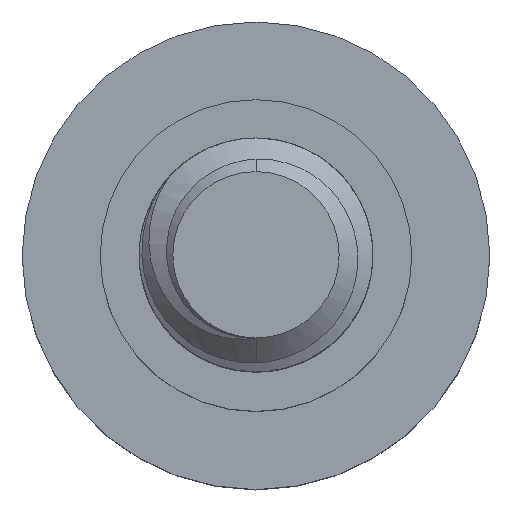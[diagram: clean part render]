
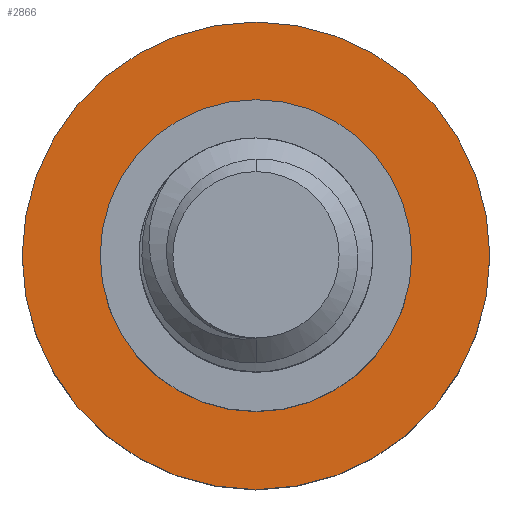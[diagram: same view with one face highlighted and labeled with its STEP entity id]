
A CAD part, top view. The second image highlights one B-rep face of the part: STEP entity #2866.
In plain terms, the highlighted planar face has unit normal (0, 0, 1).
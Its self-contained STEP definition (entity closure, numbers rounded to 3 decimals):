
#27 = CARTESIAN_POINT ( 'NONE',  ( 0., 0., -4. ) ) ;
#53 = PLANE ( 'NONE',  #1528 ) ;
#225 = EDGE_CURVE ( 'NONE', #3052, #949, #1937, .T. ) ;
#315 = VERTEX_POINT ( 'NONE', #2315 ) ;
#421 = DIRECTION ( 'NONE',  ( 0., 0., -1. ) ) ;
#616 = VERTEX_POINT ( 'NONE', #1017 ) ;
#700 = CIRCLE ( 'NONE', #2765, 6. ) ;
#724 = FACE_BOUND ( 'NONE', #2241, .T. ) ;
#898 = DIRECTION ( 'NONE',  ( 0., 0., -1. ) ) ;
#949 = VERTEX_POINT ( 'NONE', #1405 ) ;
#990 = DIRECTION ( 'NONE',  ( 0., 0., -1. ) ) ;
#1017 = CARTESIAN_POINT ( 'NONE',  ( -6., 0., -4. ) ) ;
#1229 = ORIENTED_EDGE ( 'NONE', *, *, #2730, .T. ) ;
#1309 = CARTESIAN_POINT ( 'NONE',  ( 0., 0., -4. ) ) ;
#1405 = CARTESIAN_POINT ( 'NONE',  ( 4., 0., -4. ) ) ;
#1528 = AXIS2_PLACEMENT_3D ( 'NONE', #3718, #1724, #3311 ) ;
#1532 = AXIS2_PLACEMENT_3D ( 'NONE', #27, #3285, #3592 ) ;
#1724 = DIRECTION ( 'NONE',  ( 0., 0., -1. ) ) ;
#1731 = DIRECTION ( 'NONE',  ( -1., 0., 0. ) ) ;
#1937 = CIRCLE ( 'NONE', #2760, 4. ) ;
#1939 = EDGE_CURVE ( 'NONE', #315, #616, #700, .T. ) ;
#2058 = FACE_OUTER_BOUND ( 'NONE', #2139, .T. ) ;
#2139 = EDGE_LOOP ( 'NONE', ( #3662, #3164 ) ) ;
#2165 = CARTESIAN_POINT ( 'NONE',  ( 0., 0., -4. ) ) ;
#2241 = EDGE_LOOP ( 'NONE', ( #3350, #1229 ) ) ;
#2315 = CARTESIAN_POINT ( 'NONE',  ( 6., 0., -4. ) ) ;
#2391 = CARTESIAN_POINT ( 'NONE',  ( -4., 0., -4. ) ) ;
#2592 = DIRECTION ( 'NONE',  ( -1., 0., 0. ) ) ;
#2730 = EDGE_CURVE ( 'NONE', #949, #3052, #3187, .T. ) ;
#2760 = AXIS2_PLACEMENT_3D ( 'NONE', #2165, #898, #2857 ) ;
#2765 = AXIS2_PLACEMENT_3D ( 'NONE', #4016, #421, #1731 ) ;
#2857 = DIRECTION ( 'NONE',  ( -1., 0., 0. ) ) ;
#2866 = ADVANCED_FACE ( 'NONE', ( #724, #2058 ), #53, .F. ) ;
#3052 = VERTEX_POINT ( 'NONE', #2391 ) ;
#3164 = ORIENTED_EDGE ( 'NONE', *, *, #3703, .F. ) ;
#3187 = CIRCLE ( 'NONE', #3958, 4. ) ;
#3285 = DIRECTION ( 'NONE',  ( 0., 0., -1. ) ) ;
#3311 = DIRECTION ( 'NONE',  ( -1., 0., 0. ) ) ;
#3350 = ORIENTED_EDGE ( 'NONE', *, *, #225, .T. ) ;
#3592 = DIRECTION ( 'NONE',  ( -1., 0., 0. ) ) ;
#3662 = ORIENTED_EDGE ( 'NONE', *, *, #1939, .F. ) ;
#3703 = EDGE_CURVE ( 'NONE', #616, #315, #4226, .T. ) ;
#3718 = CARTESIAN_POINT ( 'NONE',  ( 0., 0., -4. ) ) ;
#3958 = AXIS2_PLACEMENT_3D ( 'NONE', #1309, #990, #2592 ) ;
#4016 = CARTESIAN_POINT ( 'NONE',  ( 0., 0., -4. ) ) ;
#4226 = CIRCLE ( 'NONE', #1532, 6. ) ;
